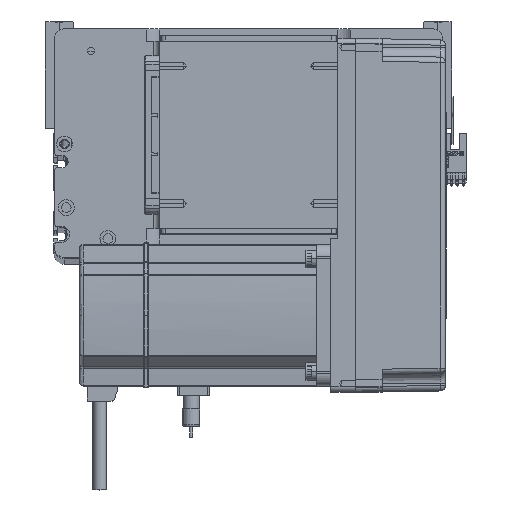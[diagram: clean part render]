
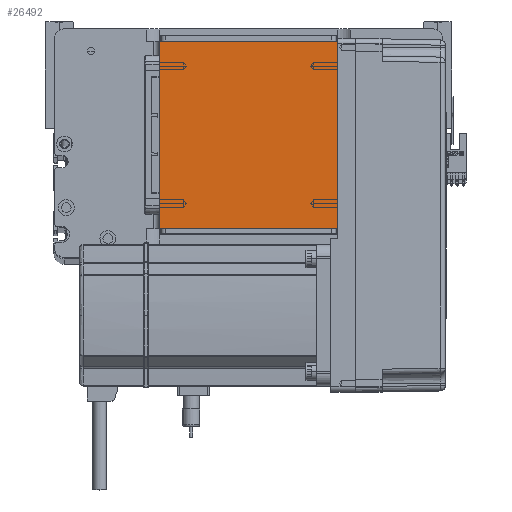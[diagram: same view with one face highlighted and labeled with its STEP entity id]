
A CAD part, top view. The second image highlights one B-rep face of the part: STEP entity #26492.
In plain terms, the highlighted planar face has unit normal (0, 0, 1).
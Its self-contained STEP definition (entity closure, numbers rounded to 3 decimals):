
#19 = CARTESIAN_POINT ( 'NONE',  ( 50.5, 122., 115. ) ) ;
#41 = VERTEX_POINT ( 'NONE', #18969 ) ;
#556 = EDGE_LOOP ( 'NONE', ( #53962, #25767, #27100, #39255 ) ) ;
#3947 = VECTOR ( 'NONE', #17438, 1000. ) ;
#4133 = LINE ( 'NONE', #44005, #6057 ) ;
#6057 = VECTOR ( 'NONE', #19488, 1000. ) ;
#6715 = VERTEX_POINT ( 'NONE', #19 ) ;
#8882 = CARTESIAN_POINT ( 'NONE',  ( 0., 0., 115. ) ) ;
#9631 = VECTOR ( 'NONE', #29005, 1000. ) ;
#10484 = AXIS2_PLACEMENT_3D ( 'NONE', #8882, #42856, #34217 ) ;
#11321 = VERTEX_POINT ( 'NONE', #15016 ) ;
#12580 = CARTESIAN_POINT ( 'NONE',  ( 50.5, 122., 115. ) ) ;
#14127 = EDGE_CURVE ( 'NONE', #34033, #11321, #49700, .T. ) ;
#15016 = CARTESIAN_POINT ( 'NONE',  ( -50.5, 16., 115. ) ) ;
#16590 = FACE_OUTER_BOUND ( 'NONE', #556, .T. ) ;
#17338 = EDGE_CURVE ( 'NONE', #11321, #41, #4133, .T. ) ;
#17438 = DIRECTION ( 'NONE',  ( 0., -1., 0. ) ) ;
#18953 = LINE ( 'NONE', #23871, #29369 ) ;
#18969 = CARTESIAN_POINT ( 'NONE',  ( 50.5, 16., 115. ) ) ;
#19488 = DIRECTION ( 'NONE',  ( 1., 0., 0. ) ) ;
#20013 = EDGE_CURVE ( 'NONE', #6715, #34033, #18953, .T. ) ;
#21258 = PLANE ( 'NONE',  #10484 ) ;
#23871 = CARTESIAN_POINT ( 'NONE',  ( -50.5, 122., 115. ) ) ;
#25767 = ORIENTED_EDGE ( 'NONE', *, *, #17338, .T. ) ;
#26492 = ADVANCED_FACE ( 'NONE', ( #16590 ), #21258, .T. ) ;
#27100 = ORIENTED_EDGE ( 'NONE', *, *, #32373, .T. ) ;
#29005 = DIRECTION ( 'NONE',  ( 0., 1., 0. ) ) ;
#29369 = VECTOR ( 'NONE', #45110, 1000. ) ;
#32373 = EDGE_CURVE ( 'NONE', #41, #6715, #54097, .T. ) ;
#34033 = VERTEX_POINT ( 'NONE', #44432 ) ;
#34217 = DIRECTION ( 'NONE',  ( 1., 0., 0. ) ) ;
#39255 = ORIENTED_EDGE ( 'NONE', *, *, #20013, .T. ) ;
#42856 = DIRECTION ( 'NONE',  ( 0., 0., 1. ) ) ;
#44005 = CARTESIAN_POINT ( 'NONE',  ( -50.5, 16., 115. ) ) ;
#44432 = CARTESIAN_POINT ( 'NONE',  ( -50.5, 122., 115. ) ) ;
#45110 = DIRECTION ( 'NONE',  ( -1., 0., 0. ) ) ;
#47038 = CARTESIAN_POINT ( 'NONE',  ( -50.5, 122., 115. ) ) ;
#49700 = LINE ( 'NONE', #47038, #3947 ) ;
#53962 = ORIENTED_EDGE ( 'NONE', *, *, #14127, .T. ) ;
#54097 = LINE ( 'NONE', #12580, #9631 ) ;
